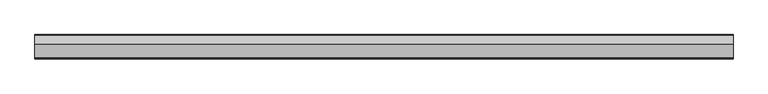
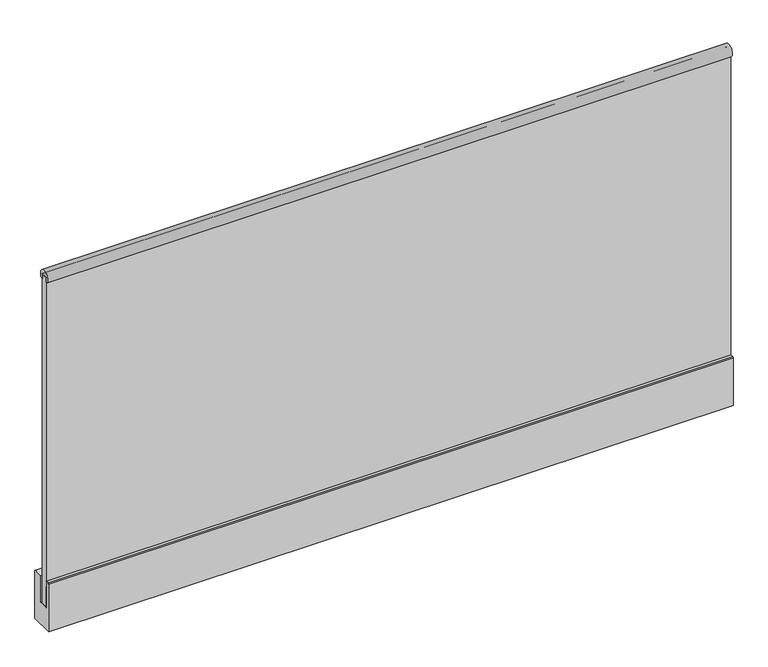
"""IFC4 building model written with IfcOpenShell, lengths in millimetres: railing geometry, Glass Railing (10+10) - Faraone - Ninfa 176 - Wall mounted - Elipse Handrail 42.4."""

from ifc_helpers import new_model, si_unit, point, frame, frame_2d, origin, place, context, project, spatial, polyline, circle_curve, trimmed, segment, composite_curve, outline, extrude, source, transform, mapped, element, save


def railing_5fe70a3d(model_context):
    return source(origin(), model_context, "Body", "SweptSolid", [
        extrude(outline(composite_curve([segment(polyline([(-1696.4218324, 1070.0168397), (-1699.2438425, 1070.0168397), (-1699.2438425, 1086.1465538)]), True, "CONTINUOUS"), segment(trimmed(circle_curve(frame_2d((-1702.6172887, 1086.1465538)), 3.3734462), [point((-1699.2438425, 1086.1465538))], [point((-1702.6172887, 1089.52))], True, "CARTESIAN"), True, "CONTINUOUS"), segment(polyline([(-1702.6172887, 1089.52), (-1719.6388003, 1089.52)]), True, "CONTINUOUS"), segment(trimmed(circle_curve(frame_2d((-1719.6388003, 1086.1344777)), 3.3855223), [point((-1719.6388003, 1089.52))], [point((-1723.0243225, 1086.1344777))], True, "CARTESIAN"), True, "CONTINUOUS"), segment(polyline([(-1723.0243225, 1086.1344777), (-1723.0243225, 1070.0168397), (-1725.8463327, 1070.0168397)]), True, "CONTINUOUS"), segment(trimmed(circle_curve(frame_2d((-1711.1340825, 1085.2808397)), 21.2), [point((-1725.8463327, 1070.0168397))], [point((-1696.4218324, 1070.0168397))], False, "CARTESIAN"), True, "CONTINUOUS")], self_intersect=False)), frame((4362.6376845, 0.0, 0.0), z_axis=(1.0, 0.0, 0.0), x_axis=(0.0, 1.0, 0.0)), (0.0, 0.0, 1.0), 2320.0),
        extrude(outline(polyline([(-1721.9140825, -92.36), (-1721.9140825, 1087.54), (-1711.6640825, 1087.54), (-1711.6640825, -91.56), (-1710.6640825, -91.56), (-1710.6640825, 1087.54), (-1700.4140825, 1087.54), (-1700.4140825, -92.36), (-1721.9140825, -92.36)])), frame((4362.6376845, 0.0, 0.0), z_axis=(1.0, 0.0, 0.0), x_axis=(0.0, 1.0, 0.0)), (0.0, 0.0, 1.0), 2320.0),
        extrude(outline(composite_curve([segment(polyline([(-1733.7866521, -0.0006325), (-1723.8822116, -0.0006325), (-1723.8822116, -95.3393625), (-1692.1059535, -95.3393625), (-1692.1059535, -0.0006325), (-1659.6252176, -0.0006325)]), True, "CONTINUOUS"), segment(trimmed(circle_curve(frame_2d((-1659.6252176, -3.0621312)), 3.0614987), [point((-1659.6252176, -0.0006325))], [point((-1656.5637189, -3.0621312))], False, "CARTESIAN"), True, "CONTINUOUS"), segment(polyline([(-1656.5637189, -3.0621312), (-1656.5637189, -173.21), (-1736.9072523, -173.21), (-1736.9072523, -3.1212327)]), True, "CONTINUOUS"), segment(trimmed(circle_curve(frame_2d((-1733.7866521, -3.1212327)), 3.1206002), [point((-1736.9072523, -3.1212327))], [point((-1733.7866521, -0.0006325))], False, "CARTESIAN"), True, "CONTINUOUS")], self_intersect=False)), frame((4362.6376845, 0.0, 0.0), z_axis=(1.0, 0.0, 0.0), x_axis=(0.0, 1.0, 0.0)), (0.0, 0.0, 1.0), 2320.0),
        extrude(outline(polyline([(-1723.8859973, -95.34), (-1723.8859973, -20.1108016), (-1721.9120493, -20.1108016), (-1721.9120493, -92.3609041), (-1700.4021678, -92.3609041), (-1700.4021678, -95.34), (-1723.8859973, -95.34)])), frame((4362.6376845, 0.0, 0.0), z_axis=(1.0, 0.0, 0.0), x_axis=(0.0, 1.0, 0.0)), (0.0, 0.0, 1.0), 2320.0),
    ])


if __name__ == "__main__":
    model = new_model("IFC4")
    model_context = context("Model", 3, world=origin())
    ifc_project = project(units=[si_unit("LENGTHUNIT", "METRE", prefix="MILLI")], contexts=[model_context])
    site = spatial("IfcSite", under=ifc_project)
    building = spatial("IfcBuilding", under=site)
    placement = place(None, origin())
    railing_shape = railing_5fe70a3d(model_context)
    element("IfcRailing", 1, ObjectType="Glass Railing (10+10) - Faraone - Ninfa 176 - Wall mounted - Elipse Handrail 42.4", at=placement, inside=building, context=model_context, shape_type="MappedRepresentation", body=[
        mapped(railing_shape, transform((0.0, 0.0, 0.0), x_axis=(1.0, 0.0, 0.0), y_axis=(0.0, 1.0, 0.0), z_axis=(0.0, 0.0, 1.0))),
    ])
    save(model, "model.ifc")
